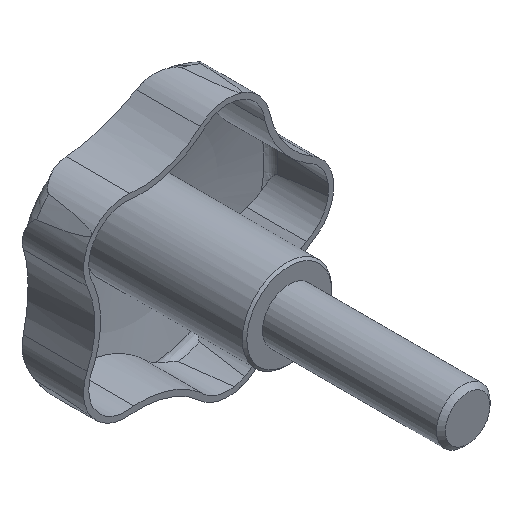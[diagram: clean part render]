
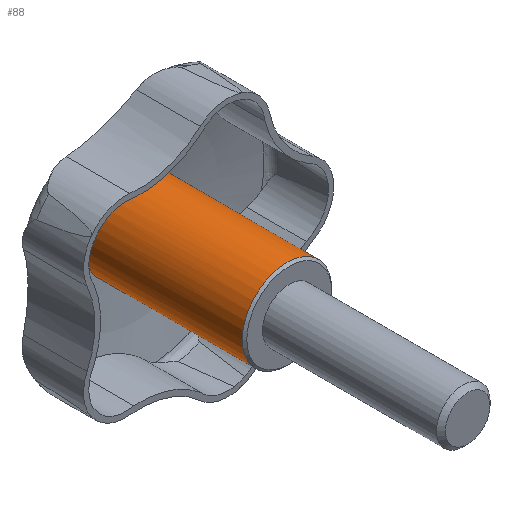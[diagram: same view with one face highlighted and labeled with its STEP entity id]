
A CAD part, isometric view. The second image highlights one B-rep face of the part: STEP entity #88.
In plain terms, the highlighted cylindrical face has radius 10 mm (diameter 20 mm), a full revolution.
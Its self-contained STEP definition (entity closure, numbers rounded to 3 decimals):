
#88 = ADVANCED_FACE( '', ( #162, #163 ), #164, .T. );
#162 = FACE_OUTER_BOUND( '', #288, .T. );
#163 = FACE_OUTER_BOUND( '', #289, .T. );
#164 = CYLINDRICAL_SURFACE( '', #290, 10. );
#288 = EDGE_LOOP( '', ( #501 ) );
#289 = EDGE_LOOP( '', ( #502 ) );
#290 = AXIS2_PLACEMENT_3D( '', #503, #504, #505 );
#501 = ORIENTED_EDGE( '', *, *, #924, .F. );
#502 = ORIENTED_EDGE( '', *, *, #908, .T. );
#503 = CARTESIAN_POINT( '', ( 0., -40., 0. ) );
#504 = DIRECTION( '', ( 0., 1., 0. ) );
#505 = DIRECTION( '', ( 0., 0., -1. ) );
#908 = EDGE_CURVE( '', #1094, #1094, #1095, .T. );
#924 = EDGE_CURVE( '', #1122, #1122, #1123, .T. );
#1094 = VERTEX_POINT( '', #1557 );
#1095 = CIRCLE( '', #1558, 10. );
#1122 = VERTEX_POINT( '', #1689 );
#1123 = CIRCLE( '', #1690, 10. );
#1557 = CARTESIAN_POINT( '', ( 0., 35.798, -10. ) );
#1558 = AXIS2_PLACEMENT_3D( '', #2315, #2316, #2317 );
#1689 = CARTESIAN_POINT( '', ( 0., 0.5, -10. ) );
#1690 = AXIS2_PLACEMENT_3D( '', #2328, #2329, #2330 );
#2315 = CARTESIAN_POINT( '', ( 0., 35.798, 0. ) );
#2316 = DIRECTION( '', ( 0., -1., 0. ) );
#2317 = DIRECTION( '', ( 0., 0., -1. ) );
#2328 = CARTESIAN_POINT( '', ( 0., 0.5, 0. ) );
#2329 = DIRECTION( '', ( 0., -1., 0. ) );
#2330 = DIRECTION( '', ( 0., 0., -1. ) );
